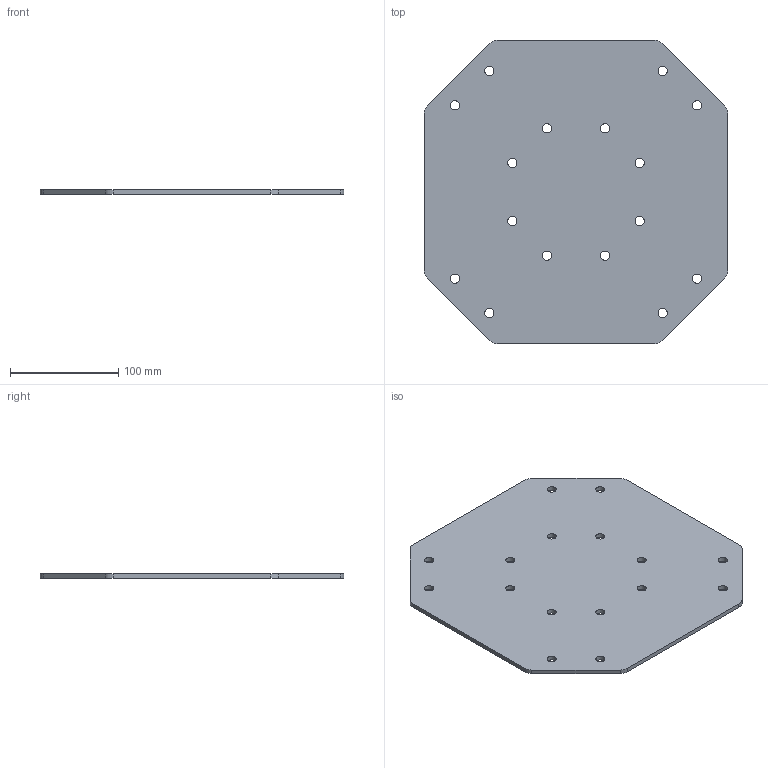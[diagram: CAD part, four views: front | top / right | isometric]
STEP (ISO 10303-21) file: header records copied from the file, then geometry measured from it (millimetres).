
FILE_DESCRIPTION(('STEP AP203'), '1');
FILE_NAME('À00804.49090 _ Êðåñòîâîé ñîåäèíèòåëü', '', ('UNSPECIFIED'), ('UNSPECIFIED'), 'C3D Converter', 'C3D Toolkit', '');
FILE_SCHEMA(('CONFIG_CONTROL_DESIGN'));
Length unit declared in the file: millimetre
Products named in the file (1): А00804.49090
Bounding box: 280 x 280 x 4 mm (x, y, z)
Volume: 277840.3 mm3; surface area: 144502.1 mm2
Topology: 1 solids, 1 shells, 34 faces, 96 edges, 64 vertices
Faces by surface type: cylinder 24, plane 10
Full cylindrical faces by diameter (mm): 8.5 x16
Entity records: 1419 total; most frequent: DIRECTION 198, CARTESIAN_POINT 179, ORIENTED_EDGE 160, AXIS2_PLACEMENT_3D 83, EDGE_LOOP 82, EDGE_CURVE 80, VERTEX_POINT 64, FACE_BOUND 50
